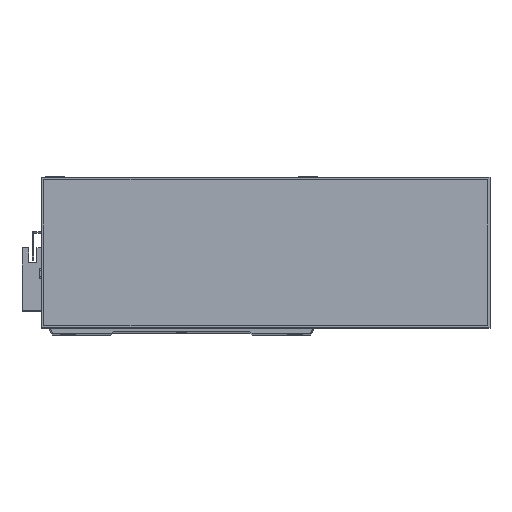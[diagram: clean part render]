
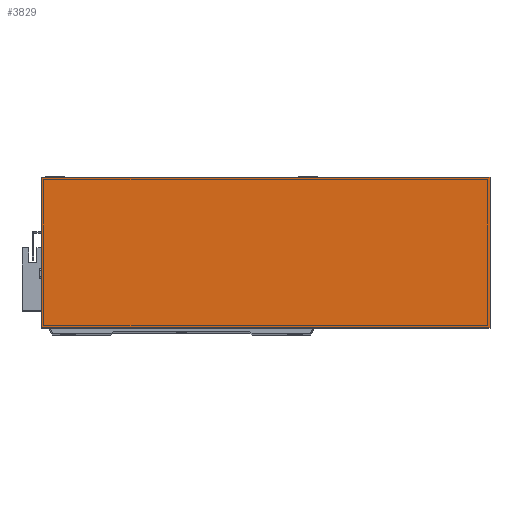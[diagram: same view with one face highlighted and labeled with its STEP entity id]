
A CAD part, top view. The second image highlights one B-rep face of the part: STEP entity #3829.
In plain terms, the highlighted planar face has unit normal (0, 0, 1).
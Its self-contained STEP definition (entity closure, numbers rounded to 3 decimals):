
#932 = DIRECTION ( 'NONE',  ( 1., 0., 0. ) ) ;
#1431 = CARTESIAN_POINT ( 'NONE',  ( 0., 93., 50. ) ) ;
#2239 = ORIENTED_EDGE ( 'NONE', *, *, #14641, .T. ) ;
#2340 = DIRECTION ( 'NONE',  ( 0., -1., 0. ) ) ;
#2536 = LINE ( 'NONE', #1431, #24835 ) ;
#2644 = CARTESIAN_POINT ( 'NONE',  ( 277., 93., 50. ) ) ;
#3829 = ADVANCED_FACE ( 'NONE', ( #8116 ), #25081, .F. ) ;
#5159 = CARTESIAN_POINT ( 'NONE',  ( 0., 93., 50. ) ) ;
#6045 = VERTEX_POINT ( 'NONE', #8756 ) ;
#6076 = ORIENTED_EDGE ( 'NONE', *, *, #10639, .T. ) ;
#6077 = EDGE_CURVE ( 'NONE', #16044, #13714, #2536, .T. ) ;
#7147 = VECTOR ( 'NONE', #15557, 1000. ) ;
#8116 = FACE_OUTER_BOUND ( 'NONE', #13242, .T. ) ;
#8756 = CARTESIAN_POINT ( 'NONE',  ( 277., 0., 50. ) ) ;
#9078 = DIRECTION ( 'NONE',  ( -1., 0., 0. ) ) ;
#9514 = ORIENTED_EDGE ( 'NONE', *, *, #6077, .T. ) ;
#10639 = EDGE_CURVE ( 'NONE', #6045, #16044, #18582, .T. ) ;
#11080 = VERTEX_POINT ( 'NONE', #27781 ) ;
#11789 = CARTESIAN_POINT ( 'NONE',  ( 0., 0., 50. ) ) ;
#13242 = EDGE_LOOP ( 'NONE', ( #2239, #26614, #6076, #9514 ) ) ;
#13714 = VERTEX_POINT ( 'NONE', #5159 ) ;
#14641 = EDGE_CURVE ( 'NONE', #13714, #11080, #23886, .T. ) ;
#15557 = DIRECTION ( 'NONE',  ( 0., 1., 0. ) ) ;
#16044 = VERTEX_POINT ( 'NONE', #2644 ) ;
#17342 = EDGE_CURVE ( 'NONE', #11080, #6045, #20440, .T. ) ;
#18184 = VECTOR ( 'NONE', #2340, 1000. ) ;
#18582 = LINE ( 'NONE', #19826, #7147 ) ;
#19330 = CARTESIAN_POINT ( 'NONE',  ( 0., 0., 50. ) ) ;
#19826 = CARTESIAN_POINT ( 'NONE',  ( 277., 0., 50. ) ) ;
#20440 = LINE ( 'NONE', #11789, #21109 ) ;
#21109 = VECTOR ( 'NONE', #932, 1000. ) ;
#23867 = CARTESIAN_POINT ( 'NONE',  ( 0., 0., 50. ) ) ;
#23886 = LINE ( 'NONE', #23867, #18184 ) ;
#24112 = DIRECTION ( 'NONE',  ( -1., 0., 0. ) ) ;
#24835 = VECTOR ( 'NONE', #9078, 1000. ) ;
#24926 = DIRECTION ( 'NONE',  ( 0., 0., -1. ) ) ;
#25081 = PLANE ( 'NONE',  #26362 ) ;
#26362 = AXIS2_PLACEMENT_3D ( 'NONE', #19330, #24926, #24112 ) ;
#26614 = ORIENTED_EDGE ( 'NONE', *, *, #17342, .T. ) ;
#27781 = CARTESIAN_POINT ( 'NONE',  ( 0., 0., 50. ) ) ;
